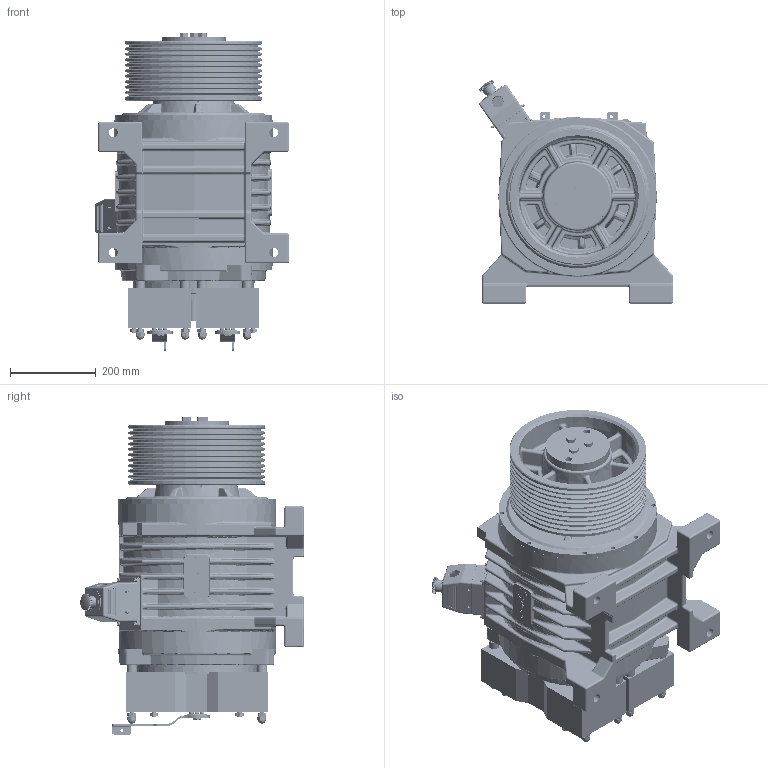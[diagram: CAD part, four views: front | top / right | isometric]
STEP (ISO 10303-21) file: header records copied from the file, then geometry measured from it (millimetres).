
FILE_DESCRIPTION (( 'STEP AP214' ), '1' );
FILE_NAME ('QS532160100.STEP', '2024-07-31T16:00:24', ( '' ), ( '' ), 'SwSTEP 2.0', 'SolidWorks 2023', '' );
FILE_SCHEMA (( 'AUTOMOTIVE_DESIGN' ));
Length unit declared in the file: millimetre
Products named in the file (1): QS532160100
Bounding box: 453.35 x 522.44 x 741.79 mm (x, y, z)
Surface area: 3751351.7 mm2 (no closed solid volume)
Topology: 0 solids, 64 shells, 6184 faces, 15188 edges, 8891 vertices
Faces by surface type: cylinder 1894, plane 1572, bspline 1049, cone 700, torus 486, sphere 483
Entity records: 221590 total; most frequent: CARTESIAN_POINT 87410, ORIENTED_EDGE 29118, DIRECTION 26496, EDGE_CURVE 14638, AXIS2_PLACEMENT_3D 10970, VERTEX_POINT 8856, EDGE_LOOP 6690, ADVANCED_FACE 6184
